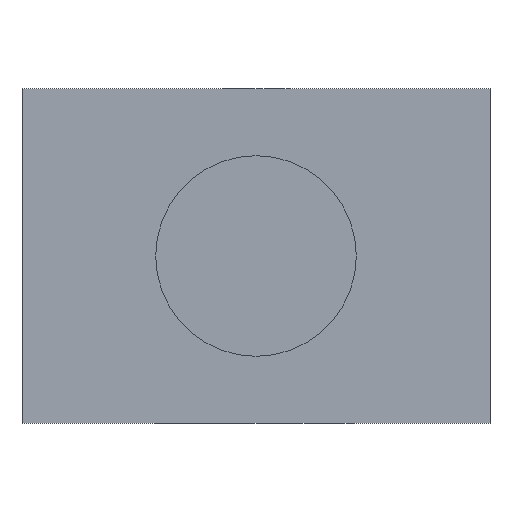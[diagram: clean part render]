
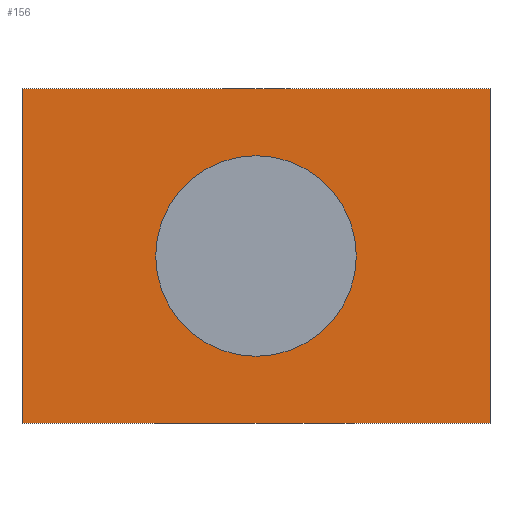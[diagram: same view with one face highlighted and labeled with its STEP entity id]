
A CAD part, front view. The second image highlights one B-rep face of the part: STEP entity #156.
In plain terms, the highlighted planar face has unit normal (0, -1, 0).
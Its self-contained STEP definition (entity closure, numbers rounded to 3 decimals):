
#62 = EDGE_CURVE('',#63,#65,#67,.T.);
#63 = VERTEX_POINT('',#64);
#64 = CARTESIAN_POINT('',(138.64,137.5,237.5));
#65 = VERTEX_POINT('',#66);
#66 = CARTESIAN_POINT('',(131.64,137.5,237.5));
#67 = LINE('',#68,#69);
#68 = CARTESIAN_POINT('',(131.64,137.5,237.5));
#69 = VECTOR('',#70,1.);
#70 = DIRECTION('',(-1.,0.,0.));
#156 = ADVANCED_FACE('',(#157,#182),#193,.T.);
#157 = FACE_BOUND('',#158,.T.);
#158 = EDGE_LOOP('',(#159,#167,#168,#176));
#159 = ORIENTED_EDGE('',*,*,#160,.F.);
#160 = EDGE_CURVE('',#65,#161,#163,.T.);
#161 = VERTEX_POINT('',#162);
#162 = CARTESIAN_POINT('',(131.64,137.5,242.5));
#163 = LINE('',#164,#165);
#164 = CARTESIAN_POINT('',(131.64,137.5,242.5));
#165 = VECTOR('',#166,1.);
#166 = DIRECTION('',(0.,0.,1.));
#167 = ORIENTED_EDGE('',*,*,#62,.F.);
#168 = ORIENTED_EDGE('',*,*,#169,.F.);
#169 = EDGE_CURVE('',#170,#63,#172,.T.);
#170 = VERTEX_POINT('',#171);
#171 = CARTESIAN_POINT('',(138.64,137.5,242.5));
#172 = LINE('',#173,#174);
#173 = CARTESIAN_POINT('',(138.64,137.5,237.5));
#174 = VECTOR('',#175,1.);
#175 = DIRECTION('',(0.,0.,-1.));
#176 = ORIENTED_EDGE('',*,*,#177,.F.);
#177 = EDGE_CURVE('',#161,#170,#178,.T.);
#178 = LINE('',#179,#180);
#179 = CARTESIAN_POINT('',(138.64,137.5,242.5));
#180 = VECTOR('',#181,1.);
#181 = DIRECTION('',(1.,0.,0.));
#182 = FACE_BOUND('',#183,.T.);
#183 = EDGE_LOOP('',(#184));
#184 = ORIENTED_EDGE('',*,*,#185,.T.);
#185 = EDGE_CURVE('',#186,#186,#188,.T.);
#186 = VERTEX_POINT('',#187);
#187 = CARTESIAN_POINT('',(136.64,137.5,240.));
#188 = CIRCLE('',#189,1.5);
#189 = AXIS2_PLACEMENT_3D('',#190,#191,#192);
#190 = CARTESIAN_POINT('',(135.14,137.5,240.));
#191 = DIRECTION('',(0.,1.,0.));
#192 = DIRECTION('',(-1.,0.,0.));
#193 = PLANE('',#194);
#194 = AXIS2_PLACEMENT_3D('',#195,#196,#197);
#195 = CARTESIAN_POINT('',(135.14,137.5,240.));
#196 = DIRECTION('',(0.,-1.,0.));
#197 = DIRECTION('',(1.,0.,0.));
